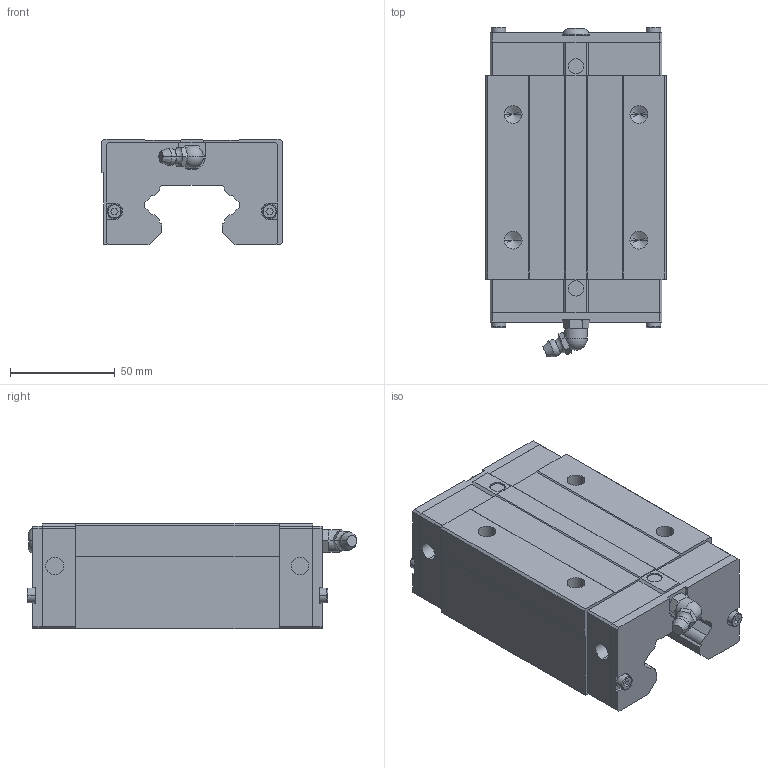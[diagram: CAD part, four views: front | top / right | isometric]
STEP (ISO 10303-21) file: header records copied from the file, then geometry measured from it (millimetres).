
FILE_DESCRIPTION(('no description'),'unknown implementation level');
FILE_NAME('HGL45CA_Z0_H_SS_8.stp',' ',('HIWIN GmbH'),('CADClick - KiM GmbH - www.kimweb.de'),'unknown preprocess','ACIS','unknown authorization');
FILE_SCHEMA(('automotive_design'));
Length unit declared in the file: millimetre
Products named in the file (1): HGL45CA Z0 H SS
Bounding box: 86 x 157.33 x 50.5 mm (x, y, z)
Volume: 434366.8 mm3; surface area: 57708.1 mm2
Topology: 1 solids, 6 shells, 296 faces, 753 edges, 475 vertices
Faces by surface type: plane 182, cylinder 60, torus 30, cone 22, sphere 2
Entity records: 17388 total; most frequent: CARTESIAN_POINT 1735, STYLED_ITEM 1515, PRESENTATION_STYLE_ASSIGNMENT 1515, COLOUR_RGB 1515, DIRECTION 1498, ORIENTED_EDGE 1486, EDGE_CURVE 743, CURVE_STYLE 743
